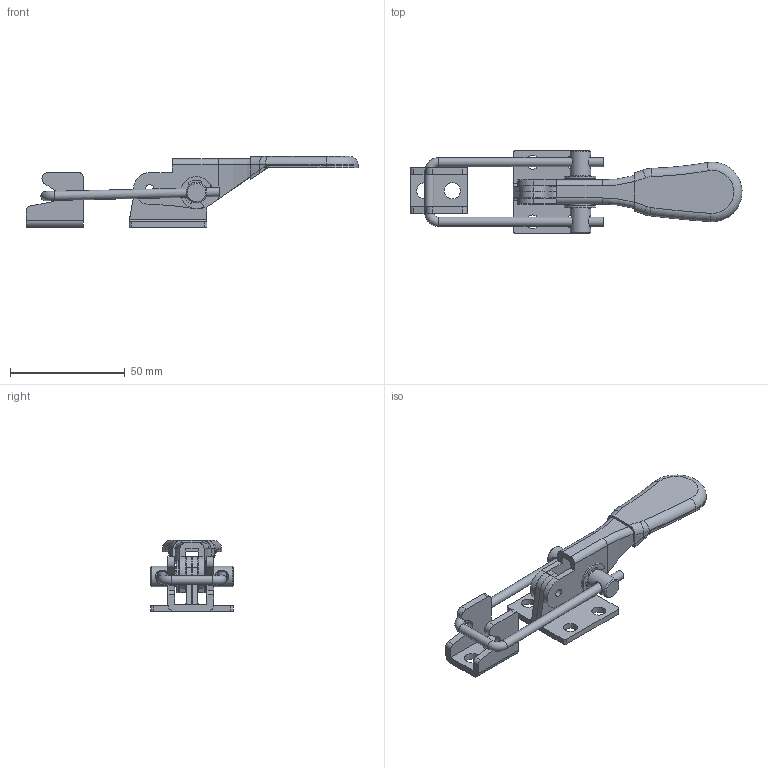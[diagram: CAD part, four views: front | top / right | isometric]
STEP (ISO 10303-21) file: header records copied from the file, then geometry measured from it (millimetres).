
FILE_DESCRIPTION(/* description */ (''),/* implementation_level */ '2;1');
FILE_NAME(/* name */ '\\NAS\db20\C-025-41F\DR_C-025-41F.stp',/* time_stamp */ '2018-03-01T17:52:55+09:00',/* author */ ('user'),/* organization */ (''),/* preprocessor_version */ 'ST-DEVELOPER v15.6',/* originating_system */ 'Autodesk Inventor 2015',/* authorisation */ '');
FILE_SCHEMA (('AUTOMOTIVE_DESIGN { 1 0 10303 214 3 1 1 }'));
Length unit declared in the file: millimetre
Products named in the file (7): DR_C-025-41F-A; DR_C-025-41F-B; DR_C-025-41F-C; DR_E링14; DR_C-025-41F-BR; DR_C-025-41F-H; DR_C-025-41F
Bounding box: 144.92 x 36 x 31 mm (x, y, z)
Volume: 21887.6 mm3; surface area: 24900.1 mm2
Topology: 9 solids, 10 shells, 302 faces, 777 edges, 495 vertices
Faces by surface type: cylinder 134, plane 98, torus 36, bspline 32, cone 2
Full cylindrical faces by diameter (mm): 3.5 x4, 4 x3, 5 x2, 6 x4, 7 x4, 9 x5
Entity records: 9891 total; most frequent: CARTESIAN_POINT 2887, DIRECTION 1497, ORIENTED_EDGE 1363, EDGE_CURVE 689, AXIS2_PLACEMENT_3D 607, VERTEX_POINT 451, EDGE_LOOP 340, CIRCLE 287
